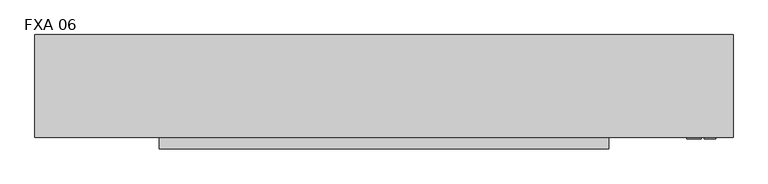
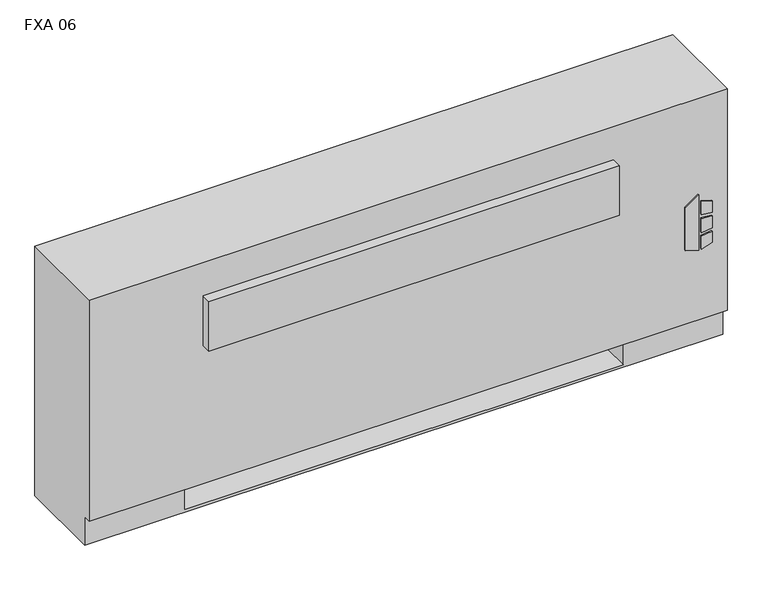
"""IFC4 building model written with IfcOpenShell, lengths in millimetres: proxy geometry, Vertical_Fan_Coil_Unit_-_FXA_-_IEC_-_4-Pipe_FS-FR_RH_2022 : FXA 06."""

from ifc_helpers import new_model, si_unit, point, frame, frame_2d, origin, place, context, project, spatial, polyline, circle_curve, trimmed, segment, composite_curve, outline, extrude, source, transform, mapped, element, save
from ifc_brep_helpers import plane_surface, revolved_surface, advanced_brep


def fxa_06_f428c453(model_context):
    return source(origin(), model_context, "Body", "SolidModel", [
        extrude(outline(polyline([(263.9480703, 823.9868862), (254.0, 856.1602728), (396.1709244, 856.1602728), (373.1489183, 823.9868862), (263.9480703, 823.9868862)])), frame((0.0, 12.7, 0.0), z_axis=(0.0, 1.0, 0.0), x_axis=(0.0, 0.0, 1.0)), (0.0, 0.0, 1.0), 3.175),
        extrude(outline(polyline([(342.9473557, 862.9186058), (339.7449632, 889.0), (368.9738042, 889.0), (377.0382193, 862.9186058), (342.9473557, 862.9186058)])), frame((0.0, 12.7, 0.0), z_axis=(0.0, 1.0, 0.0), x_axis=(0.0, 0.0, 1.0)), (0.0, 0.0, 1.0), 3.175),
        extrude(outline(polyline([(291.0838288, 889.0), (287.4183279, 862.9186058), (254.0, 862.9186058), (262.6342372, 889.0), (291.0838288, 889.0)])), frame((0.0, 12.7, 0.0), z_axis=(0.0, 1.0, 0.0), x_axis=(0.0, 0.0, 1.0)), (0.0, 0.0, 1.0), 3.175),
        extrude(outline(polyline([(330.3989903, 889.0), (332.6808166, 862.9186058), (296.7432681, 862.9186058), (299.4845331, 889.0), (330.3989903, 889.0)])), frame((0.0, 12.7, 0.0), z_axis=(0.0, 1.0, 0.0), x_axis=(0.0, 0.0, 1.0)), (0.0, 0.0, 1.0), 3.175),
        extrude(outline(polyline([(-501.65, 81.534), (-501.65, 223.266), (-381.0, 223.266), (-381.0, 81.534), (-501.65, 81.534)])), frame((0.0, 0.0, 327.025), z_axis=(0.0, 0.0, 1.0), x_axis=(1.0, 0.0, 0.0)), (0.0, 0.0, 1.0), 260.35),
        extrude(outline(composite_curve([segment(trimmed(circle_curve(frame_2d((749.3, 130.175)), 9.525), [point((739.775, 130.175))], [point((758.825, 130.175))], False, "CARTESIAN"), True, "CONTINUOUS"), segment(trimmed(circle_curve(frame_2d((749.3, 130.175)), 9.525), [point((758.825, 130.175))], [point((739.775, 130.175))], False, "CARTESIAN"), True, "CONTINUOUS")], self_intersect=False)), frame((0.0, 0.0, 101.6), z_axis=(0.0, 0.0, 1.0), x_axis=(1.0, 0.0, 0.0)), (0.0, 0.0, 1.0), 25.4),
        extrude(outline(polyline([(850.9, 196.85), (850.9, 63.5), (685.8, 63.5), (685.8, 196.85), (850.9, 196.85)])), frame((0.0, 0.0, 127.0), z_axis=(0.0, 0.0, 1.0), x_axis=(1.0, 0.0, 0.0)), (0.0, 0.0, 1.0), 50.8),
        extrude(outline(polyline([(650.875, -9.525), (-346.075, -9.525), (-346.075, 15.875), (650.875, 15.875), (650.875, -9.525)])), frame((0.0, 0.0, 428.625), z_axis=(0.0, 0.0, 1.0), x_axis=(1.0, 0.0, 0.0)), (0.0, 0.0, 1.0), 127.0),
        extrude(outline(composite_curve([segment(trimmed(circle_curve(frame_2d((107.95, 457.2)), 7.9375), [point((107.95, 465.1375))], [point((107.95, 449.2625))], False, "CARTESIAN"), True, "CONTINUOUS"), segment(trimmed(circle_curve(frame_2d((107.95, 457.2)), 7.9375), [point((107.95, 449.2625))], [point((107.95, 465.1375))], False, "CARTESIAN"), True, "CONTINUOUS")], self_intersect=False)), frame((685.8, 0.0, 0.0), z_axis=(1.0, 0.0, 0.0), x_axis=(0.0, 1.0, 0.0)), (0.0, 0.0, 1.0), 50.8),
        extrude(outline(composite_curve([segment(trimmed(circle_curve(frame_2d((155.575, 431.8)), 7.9375), [point((155.575, 439.7375))], [point((155.575, 423.8625))], False, "CARTESIAN"), True, "CONTINUOUS"), segment(trimmed(circle_curve(frame_2d((155.575, 431.8)), 7.9375), [point((155.575, 423.8625))], [point((155.575, 439.7375))], False, "CARTESIAN"), True, "CONTINUOUS")], self_intersect=False)), frame((685.8, 0.0, 0.0), z_axis=(1.0, 0.0, 0.0), x_axis=(0.0, 1.0, 0.0)), (0.0, 0.0, 1.0), 50.8),
        extrude(outline(composite_curve([segment(trimmed(circle_curve(frame_2d((130.175, 554.99)), 7.9502), [point((130.175, 562.9402))], [point((130.175, 547.0398))], False, "CARTESIAN"), True, "CONTINUOUS"), segment(trimmed(circle_curve(frame_2d((130.175, 554.99)), 7.9502), [point((130.175, 547.0398))], [point((130.175, 562.9402))], False, "CARTESIAN"), True, "CONTINUOUS")], self_intersect=False)), frame((685.8, 0.0, 0.0), z_axis=(1.0, 0.0, 0.0), x_axis=(0.0, 1.0, 0.0)), (0.0, 0.0, 1.0), 50.8),
        extrude(outline(composite_curve([segment(trimmed(circle_curve(frame_2d((53.975, 416.56)), 7.9502), [point((53.975, 424.5102))], [point((53.975, 408.6098))], False, "CARTESIAN"), True, "CONTINUOUS"), segment(trimmed(circle_curve(frame_2d((53.975, 416.56)), 7.9502), [point((53.975, 408.6098))], [point((53.975, 424.5102))], False, "CARTESIAN"), True, "CONTINUOUS")], self_intersect=False)), frame((685.8, 0.0, 0.0), z_axis=(1.0, 0.0, 0.0), x_axis=(0.0, 1.0, 0.0)), (0.0, 0.0, 1.0), 50.8),
        advanced_brep(
        [(927.1, 244.475, 641.35), (-622.3, 244.475, 641.35), (-622.3, 15.875, 641.35), (927.1, 15.875, 641.35), (-622.3, 244.475, 0.0), (927.1, 244.475, 0.0), (927.1, 34.925, 0.0), (-622.3, 34.925, 0.0), (685.8, 244.475, 73.025), (914.4, 244.475, 73.025), (914.4, 244.475, 628.65), (685.8, 244.475, 628.65), (685.8, 244.475, 414.8650565), (714.375, 244.475, 414.8650565), (714.375, 244.475, 385.2349435), (685.8, 244.475, 385.2349435), (685.8, 244.475, 287.3375), (714.375, 244.475, 287.3375), (714.375, 244.475, 258.7625), (685.8, 244.475, 258.7625), (685.8, 244.475, 141.2875), (714.375, 244.475, 141.2875), (714.375, 244.475, 112.7125), (685.8, 244.475, 112.7125), (-381.0, 244.475, 628.65), (-609.6, 244.475, 628.65), (-609.6, 244.475, 73.025), (-381.0, 244.475, 73.025), (-381.0, 244.475, 112.7125), (-409.575, 244.475, 112.7125), (-409.575, 244.475, 141.2875), (-381.0, 244.475, 141.2875), (-381.0, 244.475, 258.7625), (-409.575, 244.475, 258.7625), (-409.575, 244.475, 287.3375), (-381.0, 244.475, 287.3375), (-381.0, 244.475, 385.2349435), (-409.575, 244.475, 385.2349435), (-409.575, 244.475, 414.8650565), (-381.0, 244.475, 414.8650565), (704.0626, 244.475, 127.0), (692.9374, 244.475, 127.0), (704.0626, 244.475, 400.05), (692.9374, 244.475, 400.05), (704.0626, 244.475, 273.05), (692.9374, 244.475, 273.05), (-388.1374, 244.475, 127.0), (-399.2626, 244.475, 127.0), (-388.1374, 244.475, 273.05), (-399.2626, 244.475, 273.05), (-388.1374, 244.475, 400.05), (-399.2626, 244.475, 400.05), (-622.3, 34.925, 73.025), (-622.3, 15.875, 73.025), (927.1, 15.875, 73.025), (927.1, 34.925, 73.025), (-381.0, 34.925, 73.025), (-381.0, 219.075, 73.025), (685.8, 219.075, 73.025), (685.8, 34.925, 73.025), (685.8, 34.925, 6.35), (-381.0, 34.925, 6.35), (685.8, 41.275, 628.65), (914.4, 41.275, 628.65), (914.4, 41.275, 73.025), (685.8, 41.275, 73.025), (-381.0, 41.275, 628.65), (-381.0, 41.275, 73.025), (-609.6, 41.275, 73.025), (-609.6, 41.275, 628.65), (685.8, 219.075, 73.025), (685.8, 238.125, 112.7125), (685.8, 238.125, 141.2875), (685.8, 238.125, 258.7625), (685.8, 238.125, 287.3375), (685.8, 238.125, 385.2349435), (685.8, 238.125, 414.8650565), (-381.0, 219.075, 73.025), (-381.0, 238.125, 414.8650565), (-381.0, 238.125, 385.2349435), (-381.0, 238.125, 287.3375), (-381.0, 238.125, 258.7625), (-381.0, 238.125, 141.2875), (-381.0, 238.125, 112.7125), (-381.0, 219.075, 6.35), (685.8, 219.075, 6.35), (714.375, 238.125, 112.7125), (714.375, 238.125, 141.2875), (692.9374, 238.125, 127.0), (704.0626, 238.125, 127.0), (714.375, 238.125, 258.7625), (714.375, 238.125, 287.3375), (692.9374, 238.125, 273.05), (704.0626, 238.125, 273.05), (714.375, 238.125, 385.2349435), (714.375, 238.125, 414.8650565), (692.9374, 238.125, 400.05), (704.0626, 238.125, 400.05), (-409.575, 238.125, 141.2875), (-409.575, 238.125, 112.7125), (-399.2626, 238.125, 127.0), (-388.1374, 238.125, 127.0), (-409.575, 238.125, 287.3375), (-409.575, 238.125, 258.7625), (-399.2626, 238.125, 273.05), (-388.1374, 238.125, 273.05), (-409.575, 238.125, 414.8650565), (-409.575, 238.125, 385.2349435), (-399.2626, 238.125, 400.05), (-388.1374, 238.125, 400.05)],
        [
            (0, 1),
            (1, 2),
            (2, 3),
            (3, 0),
            (4, 5),
            (5, 6),
            (6, 7),
            (7, 4),
            (0, 5),
            (4, 1),
            (8, 9),
            (9, 10),
            (10, 11),
            (11, 12),
            (12, 13),
            (13, 14),
            (14, 15),
            (15, 16),
            (16, 17),
            (17, 18),
            (18, 19),
            (19, 20),
            (20, 21),
            (21, 22),
            (22, 23),
            (23, 8),
            (24, 25),
            (25, 26),
            (26, 27),
            (27, 28),
            (28, 29),
            (29, 30),
            (30, 31),
            (31, 32),
            (32, 33),
            (33, 34),
            (34, 35),
            (35, 36),
            (36, 37),
            (37, 38),
            (38, 39),
            (39, 24),
            (40, 41, circle_curve(frame((698.5, 244.475, 127.0), z_axis=(0.0, -1.0, 0.0), x_axis=(-1.0, 0.0, 0.0)), 5.5626)),
            (41, 40, circle_curve(frame((698.5, 244.475, 127.0), z_axis=(0.0, -1.0, 0.0), x_axis=(-1.0, 0.0, 0.0)), 5.5626)),
            (42, 43, circle_curve(frame((698.5, 244.475, 400.05), z_axis=(0.0, -1.0, 0.0), x_axis=(-1.0, 0.0, 0.0)), 5.5626)),
            (43, 42, circle_curve(frame((698.5, 244.475, 400.05), z_axis=(0.0, -1.0, 0.0), x_axis=(-1.0, 0.0, 0.0)), 5.5626)),
            (44, 45, circle_curve(frame((698.5, 244.475, 273.05), z_axis=(0.0, -1.0, 0.0), x_axis=(-1.0, 0.0, 0.0)), 5.5626)),
            (45, 44, circle_curve(frame((698.5, 244.475, 273.05), z_axis=(0.0, -1.0, 0.0), x_axis=(-1.0, 0.0, 0.0)), 5.5626)),
            (46, 47, circle_curve(frame((-393.7, 244.475, 127.0), z_axis=(0.0, -1.0, 0.0), x_axis=(-1.0, 0.0, 0.0)), 5.5626)),
            (47, 46, circle_curve(frame((-393.7, 244.475, 127.0), z_axis=(0.0, -1.0, 0.0), x_axis=(-1.0, 0.0, 0.0)), 5.5626)),
            (48, 49, circle_curve(frame((-393.7, 244.475, 273.05), z_axis=(0.0, -1.0, 0.0), x_axis=(-1.0, 0.0, 0.0)), 5.5626)),
            (49, 48, circle_curve(frame((-393.7, 244.475, 273.05), z_axis=(0.0, -1.0, 0.0), x_axis=(-1.0, 0.0, 0.0)), 5.5626)),
            (50, 51, circle_curve(frame((-393.7, 244.475, 400.05), z_axis=(0.0, -1.0, 0.0), x_axis=(-1.0, 0.0, 0.0)), 5.5626)),
            (51, 50, circle_curve(frame((-393.7, 244.475, 400.05), z_axis=(0.0, -1.0, 0.0), x_axis=(-1.0, 0.0, 0.0)), 5.5626)),
            (7, 52),
            (52, 53),
            (53, 2),
            (53, 54),
            (54, 3),
            (54, 55),
            (55, 6),
            (52, 56),
            (56, 57),
            (57, 58),
            (58, 59),
            (59, 55),
            (59, 60),
            (60, 61),
            (61, 56),
            (62, 63),
            (63, 64),
            (64, 65),
            (65, 62),
            (66, 67),
            (67, 68),
            (68, 69),
            (69, 66),
            (65, 70),
            (70, 8),
            (23, 71),
            (71, 72),
            (72, 20),
            (19, 73),
            (73, 74),
            (74, 16),
            (15, 75),
            (75, 76),
            (76, 12),
            (11, 62),
            (64, 9),
            (63, 10),
            (69, 25),
            (24, 66),
            (68, 26),
            (67, 77),
            (77, 27),
            (39, 78),
            (78, 79),
            (79, 36),
            (35, 80),
            (80, 81),
            (81, 32),
            (31, 82),
            (82, 83),
            (83, 28),
            (57, 84),
            (84, 85),
            (85, 58),
            (85, 60),
            (84, 61),
            (71, 86),
            (86, 87),
            (87, 72),
            (88, 89, circle_curve(frame((698.5, 238.125, 127.0), z_axis=(0.0, 1.0, 0.0), x_axis=(-1.0, 0.0, 0.0)), 5.5626)),
            (89, 88, circle_curve(frame((698.5, 238.125, 127.0), z_axis=(0.0, 1.0, 0.0), x_axis=(-1.0, 0.0, 0.0)), 5.5626)),
            (73, 90),
            (90, 91),
            (91, 74),
            (92, 93, circle_curve(frame((698.5, 238.125, 273.05), z_axis=(0.0, 1.0, 0.0), x_axis=(-1.0, 0.0, 0.0)), 5.5626)),
            (93, 92, circle_curve(frame((698.5, 238.125, 273.05), z_axis=(0.0, 1.0, 0.0), x_axis=(-1.0, 0.0, 0.0)), 5.5626)),
            (75, 94),
            (94, 95),
            (95, 76),
            (96, 97, circle_curve(frame((698.5, 238.125, 400.05), z_axis=(0.0, 1.0, 0.0), x_axis=(-1.0, 0.0, 0.0)), 5.5626)),
            (97, 96, circle_curve(frame((698.5, 238.125, 400.05), z_axis=(0.0, 1.0, 0.0), x_axis=(-1.0, 0.0, 0.0)), 5.5626)),
            (98, 99),
            (99, 83),
            (82, 98),
            (100, 101, circle_curve(frame((-393.7, 238.125, 127.0), z_axis=(0.0, 1.0, 0.0), x_axis=(-1.0, 0.0, 0.0)), 5.5626)),
            (101, 100, circle_curve(frame((-393.7, 238.125, 127.0), z_axis=(0.0, 1.0, 0.0), x_axis=(-1.0, 0.0, 0.0)), 5.5626)),
            (102, 103),
            (103, 81),
            (80, 102),
            (104, 105, circle_curve(frame((-393.7, 238.125, 273.05), z_axis=(0.0, 1.0, 0.0), x_axis=(-1.0, 0.0, 0.0)), 5.5626)),
            (105, 104, circle_curve(frame((-393.7, 238.125, 273.05), z_axis=(0.0, 1.0, 0.0), x_axis=(-1.0, 0.0, 0.0)), 5.5626)),
            (106, 107),
            (107, 79),
            (78, 106),
            (108, 109, circle_curve(frame((-393.7, 238.125, 400.05), z_axis=(0.0, 1.0, 0.0), x_axis=(-1.0, 0.0, 0.0)), 5.5626)),
            (109, 108, circle_curve(frame((-393.7, 238.125, 400.05), z_axis=(0.0, 1.0, 0.0), x_axis=(-1.0, 0.0, 0.0)), 5.5626)),
            (87, 21),
            (86, 22),
            (91, 17),
            (90, 18),
            (95, 13),
            (94, 14),
            (30, 98),
            (99, 29),
            (34, 102),
            (103, 33),
            (38, 106),
            (107, 37),
            (88, 41),
            (40, 89),
            (96, 43),
            (42, 97),
            (92, 45),
            (44, 93),
            (100, 47),
            (46, 101),
            (104, 49),
            (48, 105),
            (108, 51),
            (50, 109),
        ],
        [
            plane_surface(frame((-622.3, 244.475, 641.35), z_axis=(0.0, 0.0, 1.0), x_axis=(-1.0, 0.0, 0.0))),
            plane_surface(frame((-622.3, 244.475, 0.0), z_axis=(0.0, 0.0, -1.0), x_axis=(1.0, 0.0, 0.0))),
            plane_surface(frame((927.1, 244.475, 641.35), z_axis=(0.0, 1.0, 0.0), x_axis=(0.0, 0.0, -1.0))),
            plane_surface(frame((-622.3, 244.475, 641.35), z_axis=(-1.0, 0.0, 0.0), x_axis=(0.0, 0.0, -1.0))),
            plane_surface(frame((-622.3, 15.875, 641.35), z_axis=(0.0, -1.0, 0.0), x_axis=(0.0, 0.0, -1.0))),
            plane_surface(frame((927.1, 15.875, 641.35), z_axis=(1.0, 0.0, 0.0), x_axis=(0.0, 0.0, -1.0))),
            plane_surface(frame((-622.3, 15.875, 73.025), z_axis=(0.0, 0.0, -1.0), x_axis=(1.0, 0.0, 0.0))),
            plane_surface(frame((-622.3, 34.925, 73.025), z_axis=(0.0, -1.0, 0.0), x_axis=(1.0, 0.0, 0.0))),
            plane_surface(frame((685.8, 41.275, 628.65), z_axis=(0.0, 1.0, 0.0), x_axis=(0.0, 0.0, -1.0))),
            plane_surface(frame((685.8, 41.275, 628.65), z_axis=(1.0, 0.0, 0.0), x_axis=(0.0, 1.0, 0.0))),
            plane_surface(frame((685.8, 41.275, 73.025), z_axis=(0.0, 0.0, 1.0), x_axis=(0.0, 1.0, 0.0))),
            plane_surface(frame((914.4, 41.275, 73.025), z_axis=(-1.0, 0.0, 0.0), x_axis=(0.0, 1.0, 0.0))),
            plane_surface(frame((914.4, 41.275, 628.65), z_axis=(0.0, 0.0, -1.0), x_axis=(0.0, 1.0, 0.0))),
            plane_surface(frame((-381.0, 41.275, 628.65), z_axis=(0.0, 0.0, -1.0), x_axis=(0.0, 1.0, 0.0))),
            plane_surface(frame((-609.6, 41.275, 628.65), z_axis=(1.0, 0.0, 0.0), x_axis=(0.0, 1.0, 0.0))),
            plane_surface(frame((-609.6, 41.275, 73.025), z_axis=(0.0, 0.0, 1.0), x_axis=(0.0, 1.0, 0.0))),
            plane_surface(frame((-381.0, 41.275, 73.025), z_axis=(-1.0, 0.0, 0.0), x_axis=(0.0, 1.0, 0.0))),
            plane_surface(frame((685.8, 219.075, 73.025), z_axis=(0.0, -1.0, 0.0), x_axis=(0.0, 0.0, -1.0))),
            plane_surface(frame((685.8, 219.075, 73.025), z_axis=(-1.0, 0.0, 0.0), x_axis=(0.0, -1.0, 0.0))),
            plane_surface(frame((685.8, 219.075, 6.35), z_axis=(0.0, 0.0, 1.0), x_axis=(0.0, -1.0, 0.0))),
            plane_surface(frame((-381.0, 219.075, 6.35), z_axis=(1.0, 0.0, 0.0), x_axis=(0.0, -1.0, 0.0))),
            plane_surface(frame((714.375, 238.125, 141.2875), z_axis=(0.0, -1.0, 0.0), x_axis=(-1.0, 0.0, 0.0))),
            plane_surface(frame((685.8, 244.475, 141.2875), z_axis=(0.0, 0.0, 1.0), x_axis=(0.0, -1.0, 0.0))),
            plane_surface(frame((714.375, 244.475, 141.2875), z_axis=(1.0, 0.0, 0.0), x_axis=(0.0, -1.0, 0.0))),
            plane_surface(frame((714.375, 244.475, 112.7125), z_axis=(0.0, 0.0, -1.0), x_axis=(0.0, -1.0, 0.0))),
            plane_surface(frame((685.8, 244.475, 287.3375), z_axis=(0.0, 0.0, 1.0), x_axis=(0.0, -1.0, 0.0))),
            plane_surface(frame((714.375, 244.475, 287.3375), z_axis=(1.0, 0.0, 0.0), x_axis=(0.0, -1.0, 0.0))),
            plane_surface(frame((714.375, 244.475, 258.7625), z_axis=(0.0, 0.0, -1.0), x_axis=(0.0, -1.0, 0.0))),
            plane_surface(frame((685.8, 244.475, 414.8650565), z_axis=(0.0, 0.0, 1.0), x_axis=(0.0, -1.0, 0.0))),
            plane_surface(frame((714.375, 244.475, 414.8650565), z_axis=(1.0, 0.0, 0.0), x_axis=(0.0, -1.0, 0.0))),
            plane_surface(frame((714.375, 244.475, 385.2349435), z_axis=(0.0, 0.0, -1.0), x_axis=(0.0, -1.0, 0.0))),
            plane_surface(frame((-409.575, 244.475, 141.2875), z_axis=(0.0, 0.0, 1.0), x_axis=(0.0, -1.0, 0.0))),
            plane_surface(frame((-381.0, 244.475, 112.7125), z_axis=(0.0, 0.0, -1.0), x_axis=(0.0, -1.0, 0.0))),
            plane_surface(frame((-409.575, 244.475, 112.7125), z_axis=(-1.0, 0.0, 0.0), x_axis=(0.0, -1.0, 0.0))),
            plane_surface(frame((-409.575, 244.475, 287.3375), z_axis=(0.0, 0.0, 1.0), x_axis=(0.0, -1.0, 0.0))),
            plane_surface(frame((-381.0, 244.475, 258.7625), z_axis=(0.0, 0.0, -1.0), x_axis=(0.0, -1.0, 0.0))),
            plane_surface(frame((-409.575, 244.475, 258.7625), z_axis=(-1.0, 0.0, 0.0), x_axis=(0.0, -1.0, 0.0))),
            plane_surface(frame((-409.575, 244.475, 414.8650565), z_axis=(0.0, 0.0, 1.0), x_axis=(0.0, -1.0, 0.0))),
            plane_surface(frame((-381.0, 244.475, 385.2349435), z_axis=(0.0, 0.0, -1.0), x_axis=(0.0, -1.0, 0.0))),
            plane_surface(frame((-409.575, 244.475, 385.2349435), z_axis=(-1.0, 0.0, 0.0), x_axis=(0.0, -1.0, 0.0))),
            revolved_surface(polyline([(692.9374, 238.125, 127.0), (692.9374, 244.475, 127.0)]), (698.5, 244.475, 127.0), (0.0, -1.0, 0.0)),
            revolved_surface(polyline([(692.9374, 238.125, 400.05), (692.9374, 244.475, 400.05)]), (698.5, 244.475, 400.05), (0.0, -1.0, 0.0)),
            revolved_surface(polyline([(692.9374, 238.125, 273.05), (692.9374, 244.475, 273.05)]), (698.5, 244.475, 273.05), (0.0, -1.0, 0.0)),
            revolved_surface(polyline([(-399.26259999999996, 238.125, 127.0), (-399.26259999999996, 244.475, 127.0)]), (-393.7, 244.475, 127.0), (0.0, -1.0, 0.0)),
            revolved_surface(polyline([(-399.26259999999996, 238.125, 273.05), (-399.26259999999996, 244.475, 273.05)]), (-393.7, 244.475, 273.05), (0.0, -1.0, 0.0)),
            revolved_surface(polyline([(-399.26259999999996, 238.125, 400.05), (-399.26259999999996, 244.475, 400.05)]), (-393.7, 244.475, 400.05), (0.0, -1.0, 0.0)),
        ],
        [
            (0, [[1, 2, 3, 4]]),
            (1, [[5, 6, 7, 8]]),
            (2, [[-1, 9, -5, 10], [11, 12, 13, 14, 15, 16, 17, 18, 19, 20, 21, 22, 23, 24, 25, 26], [27, 28, 29, 30, 31, 32, 33, 34, 35, 36, 37, 38, 39, 40, 41, 42], [43, 44], [45, 46], [47, 48], [49, 50], [51, 52], [53, 54]]),
            (3, [[-2, -10, -8, 55, 56, 57]]),
            (4, [[-3, -57, 58, 59]]),
            (5, [[-4, -59, 60, 61, -6, -9]]),
            (6, [[-56, 62, 63, 64, 65, 66, -60, -58]]),
            (7, [[-7, -61, -66, 67, 68, 69, -62, -55]]),
            (8, [[70, 71, 72, 73]]),
            (8, [[74, 75, 76, 77]]),
            (9, [[-73, 78, 79, -26, 80, 81, 82, -22, 83, 84, 85, -18, 86, 87, 88, -14, 89]]),
            (10, [[-72, 90, -11, -79, -78]]),
            (11, [[-71, 91, -12, -90]]),
            (12, [[-70, -89, -13, -91]]),
            (13, [[-77, 92, -27, 93]]),
            (14, [[-76, 94, -28, -92]]),
            (15, [[-75, 95, 96, -29, -94]]),
            (16, [[-74, -93, -42, 97, 98, 99, -38, 100, 101, 102, -34, 103, 104, 105, -30, -96, -95]]),
            (17, [[-64, 106, 107, 108]]),
            (18, [[-108, 109, -67, -65]]),
            (19, [[-107, 110, -68, -109]]),
            (20, [[-106, -63, -69, -110]]),
            (21, [[111, 112, 113, -81], [114, 115]]),
            (21, [[116, 117, 118, -84], [119, 120]]),
            (21, [[121, 122, 123, -87], [124, 125]]),
            (21, [[126, 127, -104, 128], [129, 130]]),
            (21, [[131, 132, -101, 133], [134, 135]]),
            (21, [[136, 137, -98, 138], [139, 140]]),
            (22, [[-113, 141, -23, -82]]),
            (23, [[-112, 142, -24, -141]]),
            (24, [[-111, -80, -25, -142]]),
            (25, [[-118, 143, -19, -85]]),
            (26, [[-117, 144, -20, -143]]),
            (27, [[-116, -83, -21, -144]]),
            (28, [[-123, 145, -15, -88]]),
            (29, [[-122, 146, -16, -145]]),
            (30, [[-121, -86, -17, -146]]),
            (31, [[-128, -103, -33, 147]]),
            (32, [[-127, 148, -31, -105]]),
            (33, [[-126, -147, -32, -148]]),
            (34, [[-133, -100, -37, 149]]),
            (35, [[-132, 150, -35, -102]]),
            (36, [[-131, -149, -36, -150]]),
            (37, [[-138, -97, -41, 151]]),
            (38, [[-137, 152, -39, -99]]),
            (39, [[-136, -151, -40, -152]]),
            (40, [[153, -43, 154, -114]]),
            (40, [[-153, -115, -154, -44]]),
            (41, [[155, -45, 156, -124]]),
            (41, [[-155, -125, -156, -46]]),
            (42, [[157, -47, 158, -119]]),
            (42, [[-157, -120, -158, -48]]),
            (43, [[159, -49, 160, -129]]),
            (43, [[-159, -130, -160, -50]]),
            (44, [[161, -51, 162, -134]]),
            (44, [[-161, -135, -162, -52]]),
            (45, [[163, -53, 164, -139]]),
            (45, [[-163, -140, -164, -54]]),
        ],
    ),
    ])


if __name__ == "__main__":
    model = new_model("IFC4")
    model_context = context("Model", 3, world=origin())
    ifc_project = project(units=[si_unit("LENGTHUNIT", "METRE", prefix="MILLI")], contexts=[model_context])
    site = spatial("IfcSite", under=ifc_project)
    building = spatial("IfcBuilding", under=site)
    placement = place(None, origin())
    fxa_06_shape = fxa_06_f428c453(model_context)
    element("IfcBuildingElementProxy", 1, Name="Vertical_Fan_Coil_Unit_-_FXA_-_IEC_-_4-Pipe_FS-FR_RH_2022 : FXA 06", ObjectType="Vertical_Fan_Coil_Unit_-_FXA_-_IEC_-_4-Pipe_FS-FR_RH_2022 : FXA 06", at=placement, inside=building, context=model_context, shape_type="MappedRepresentation", body=[
        mapped(fxa_06_shape, transform((0.0, 0.0, 0.0), x_axis=(1.0, 0.0, 0.0), y_axis=(0.0, 1.0, 0.0), z_axis=(0.0, 0.0, 1.0))),
    ])
    save(model, "model.ifc")
